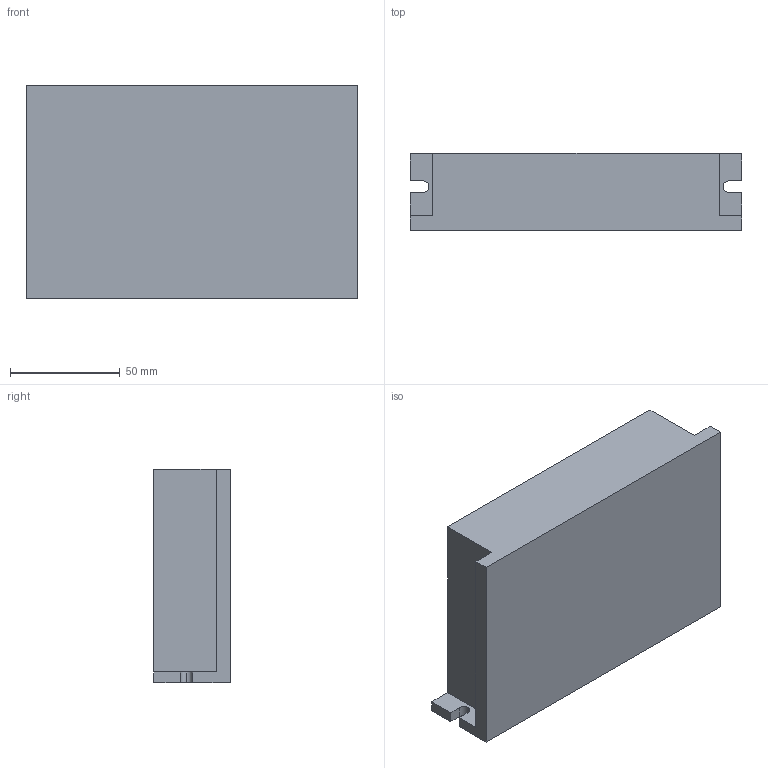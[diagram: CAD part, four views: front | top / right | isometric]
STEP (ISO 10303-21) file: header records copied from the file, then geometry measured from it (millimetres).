
FILE_DESCRIPTION (( 'STEP AP214' ), '1' );
FILE_NAME ('ECT86.STEP', '2020-10-29T01:30:41', ( 'wimxt.com' ), ( 'wimxt.com' ), 'SwSTEP 2.0', 'SolidWorks 2014', '' );
FILE_SCHEMA (( 'AUTOMOTIVE_DESIGN' ));
Length unit declared in the file: millimetre
Products named in the file (1): ECT86
Bounding box: 151 x 35 x 97.5 mm (x, y, z)
Volume: 460548.5 mm3; surface area: 46812.5 mm2
Topology: 1 solids, 1 shells, 21 faces, 57 edges, 38 vertices
Faces by surface type: plane 18, cylinder 3
Entity records: 691 total; most frequent: CARTESIAN_POINT 117, ORIENTED_EDGE 114, DIRECTION 107, EDGE_CURVE 57, LINE 51, VECTOR 51, VERTEX_POINT 38, AXIS2_PLACEMENT_3D 28
